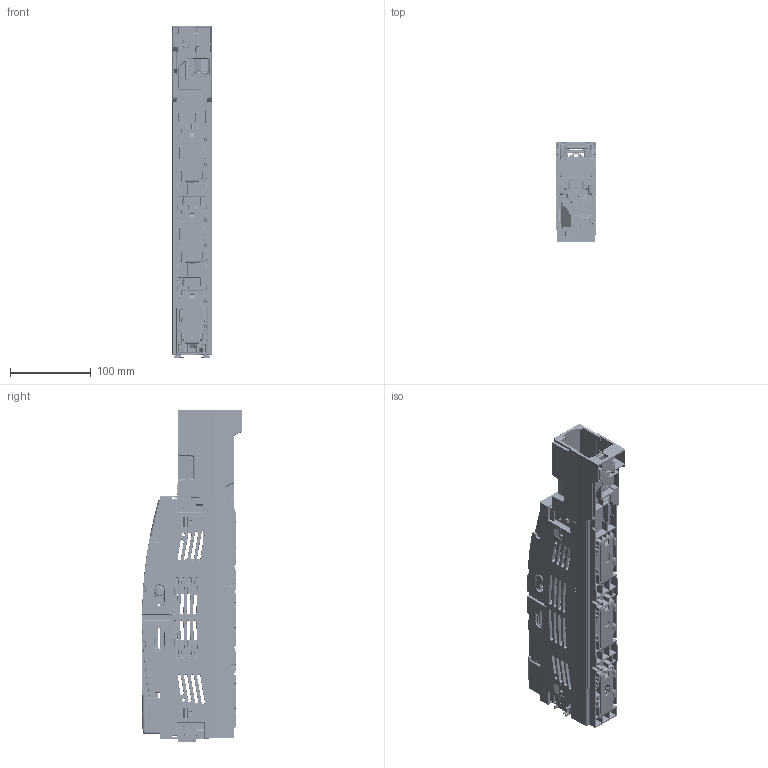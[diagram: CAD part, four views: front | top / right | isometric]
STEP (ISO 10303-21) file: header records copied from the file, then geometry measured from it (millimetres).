
FILE_DESCRIPTION (( 'STEP AP203' ), '1' );
FILE_NAME ('MV00-100.STEP', '2014-04-11T10:04:43', ( 'admin' ), ( '' ), 'SwSTEP 2.0', 'SolidWorks 2007', '' );
FILE_SCHEMA (( 'CONFIG_CONTROL_DESIGN' ));
Products named in the file (1): MV00-100
Bounding box: 49.5 x 124.6 x 410.38 mm (x, y, z)
Volume: 818716.7 mm3; surface area: 453682.6 mm2
Topology: 19 solids, 22 shells, 9638 faces, 26213 edges, 16568 vertices
Faces by surface type: plane 4985, cylinder 2807, bspline 1371, cone 466, torus 9
Entity records: 359008 total; most frequent: CARTESIAN_POINT 132738, ORIENTED_EDGE 52190, DIRECTION 39612, EDGE_CURVE 26095, LINE 16766, VECTOR 16766, VERTEX_POINT 16568, AXIS2_PLACEMENT_3D 11423
